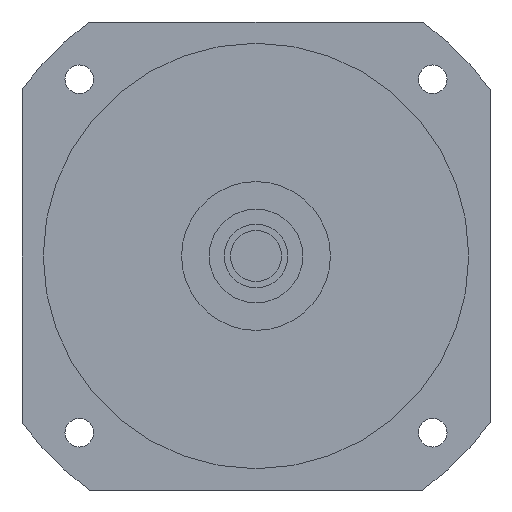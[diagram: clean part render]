
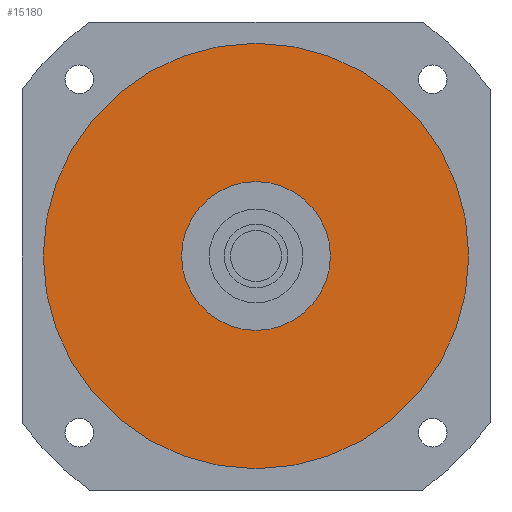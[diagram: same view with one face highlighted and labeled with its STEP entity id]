
A CAD part, left-side view. The second image highlights one B-rep face of the part: STEP entity #15180.
In plain terms, the highlighted planar face has unit normal (-1, 0, 0) as drawn and (0, 0, -1) by its records, which use the part's own axes.
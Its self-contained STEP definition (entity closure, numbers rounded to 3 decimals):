
#14600=CARTESIAN_POINT('',(100.,0.,-54.7));
#14610=VERTEX_POINT('',#14600);
#14700=CARTESIAN_POINT('',(-100.,0.,-54.7));
#14710=VERTEX_POINT('',#14700);
#14740=CARTESIAN_POINT('',(0.,0.,
-54.7));
#14750=DIRECTION('',(0.,0.,1.));
#14760=DIRECTION('',(0.,1.,0.));
#14770=AXIS2_PLACEMENT_3D('',#14740,#14750,#14760);
#14780=CIRCLE('',#14770,100.);
#14790=CARTESIAN_POINT('',(0.,100.,-54.7));
#14800=VERTEX_POINT('',#14790);
#14810=EDGE_CURVE('',#14800,#14710,#14780,.T.);
#14830=EDGE_CURVE('',#14610,#14800,#14780,.T.);
#14880=CARTESIAN_POINT('',(0.,0.,
-54.7));
#14890=DIRECTION('',(0.,0.,1.));
#14900=DIRECTION('',(-1.,0.,0.));
#14910=AXIS2_PLACEMENT_3D('',#14880,#14890,#14900);
#14920=PLANE('',#14910);
#14930=CARTESIAN_POINT('',(0.,0.,
-54.7));
#14940=DIRECTION('',(0.,0.,1.));
#14950=DIRECTION('',(0.,1.,0.));
#14960=AXIS2_PLACEMENT_3D('',#14930,#14940,#14950);
#14970=CIRCLE('',#14960,35.);
#14980=CARTESIAN_POINT('',(-35.,0.,-54.7));
#14990=VERTEX_POINT('',#14980);
#15000=CARTESIAN_POINT('',(35.,0.,-54.7));
#15010=VERTEX_POINT('',#15000);
#15020=EDGE_CURVE('',#14990,#15010,#14970,.T.);
#15030=ORIENTED_EDGE('',*,*,#15020,.T.);
#15040=CARTESIAN_POINT('',(0.,35.,-54.7));
#15050=VERTEX_POINT('',#15040);
#15060=EDGE_CURVE('',#15050,#14990,#14970,.T.);
#15070=ORIENTED_EDGE('',*,*,#15060,.T.);
#15080=EDGE_CURVE('',#15010,#15050,#14970,.T.);
#15090=ORIENTED_EDGE('',*,*,#15080,.T.);
#15100=EDGE_LOOP('',(#15090,#15070,#15030));
#15110=FACE_BOUND('',#15100,.T.);
#15120=ORIENTED_EDGE('',*,*,#14810,.F.);
#15130=EDGE_CURVE('',#14710,#14610,#14780,.T.);
#15140=ORIENTED_EDGE('',*,*,#15130,.F.);
#15150=ORIENTED_EDGE('',*,*,#14830,.F.);
#15160=EDGE_LOOP('',(#15150,#15140,#15120));
#15170=FACE_OUTER_BOUND('',#15160,.T.);
#15180=ADVANCED_FACE('',(#15110,#15170),#14920,.F.);
